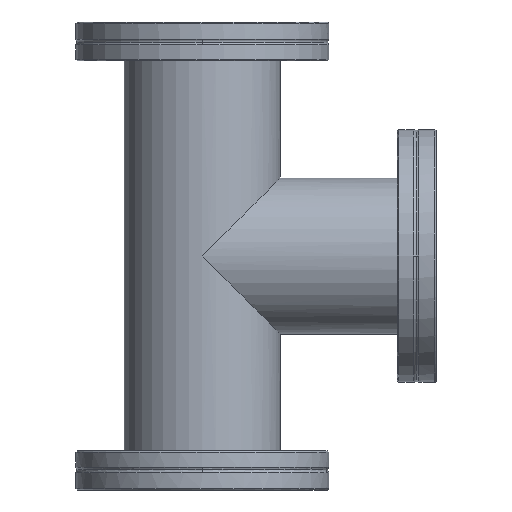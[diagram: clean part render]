
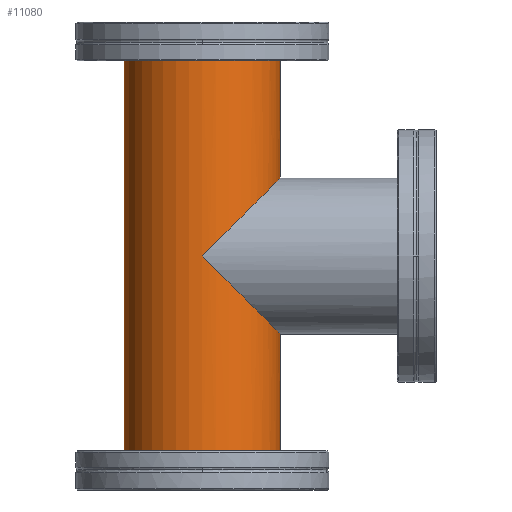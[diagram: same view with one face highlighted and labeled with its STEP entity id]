
A CAD part, front view. The second image highlights one B-rep face of the part: STEP entity #11080.
In plain terms, the highlighted cylindrical face has radius 35 mm (diameter 70 mm), a partial arc.
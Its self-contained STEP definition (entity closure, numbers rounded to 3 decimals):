
#858=CARTESIAN_POINT('',(-35.,0.,95.5));
#859=VERTEX_POINT('',#858);
#860=CARTESIAN_POINT('',(-35.0,0.,-95.5));
#861=VERTEX_POINT('',#860);
#862=CARTESIAN_POINT('',(-35.,0.,95.5));
#863=DIRECTION('',(0.0,0.0,-1.0));
#864=VECTOR('',#863,191.0);
#865=LINE('',#862,#864);
#866=EDGE_CURVE('',#859,#861,#865,.T.);
#868=CARTESIAN_POINT('',(35.,0.,95.5));
#869=VERTEX_POINT('',#868);
#877=CARTESIAN_POINT('',(35.,0.,35.));
#878=VERTEX_POINT('',#877);
#879=CARTESIAN_POINT('',(35.,0.,35.));
#880=DIRECTION('',(0.0,0.0,1.0));
#881=VECTOR('',#880,60.5);
#882=LINE('',#879,#881);
#883=EDGE_CURVE('',#878,#869,#882,.T.);
#894=CARTESIAN_POINT('',(35.,0.,-35.));
#895=VERTEX_POINT('',#894);
#903=CARTESIAN_POINT('',(35.0,0.,-95.5));
#904=VERTEX_POINT('',#903);
#905=CARTESIAN_POINT('',(35.0,0.,-95.5));
#906=DIRECTION('',(0.0,0.0,1.0));
#907=VECTOR('',#906,60.5);
#908=LINE('',#905,#907);
#909=EDGE_CURVE('',#904,#895,#908,.T.);
#8966=CARTESIAN_POINT('',(0.0,0.0,-95.5));
#8967=DIRECTION('',(0.0,0.0,1.0));
#8968=DIRECTION('',(-1.0,0.0,0.0));
#8969=AXIS2_PLACEMENT_3D('',#8966,#8967,#8968);
#8970=CIRCLE('',#8969,35.0);
#8971=EDGE_CURVE('',#861,#904,#8970,.T.);
#10195=CARTESIAN_POINT('',(0.,0.0,95.5));
#10196=DIRECTION('',(0.0,0.0,-1.0));
#10197=DIRECTION('',(1.0,0.0,0.0));
#10198=AXIS2_PLACEMENT_3D('',#10195,#10196,#10197);
#10199=CIRCLE('',#10198,35.0);
#10200=EDGE_CURVE('',#869,#859,#10199,.T.);
#11047=CARTESIAN_POINT('',(0.0,-35.0,0.0));
#11048=VERTEX_POINT('',#11047);
#11049=CARTESIAN_POINT('',(0.0,0.0,0.0));
#11050=DIRECTION('',(0.707,0.0,-0.707));
#11051=DIRECTION('',(0.707,0.0,0.707));
#11052=AXIS2_PLACEMENT_3D('',#11049,#11050,#11051);
#11053=ELLIPSE('',#11052,49.497,35.);
#11054=EDGE_CURVE('',#878,#11048,#11053,.T.);
#11056=CARTESIAN_POINT('',(0.0,0.0,0.0));
#11057=DIRECTION('',(-0.707,0.0,-0.707));
#11058=DIRECTION('',(0.707,0.0,-0.707));
#11059=AXIS2_PLACEMENT_3D('',#11056,#11057,#11058);
#11060=ELLIPSE('',#11059,49.497,35.);
#11061=EDGE_CURVE('',#895,#11048,#11060,.T.);
#11066=CARTESIAN_POINT('',(0.0,0.0,0.0));
#11067=DIRECTION('',(0.0,0.0,-1.0));
#11068=DIRECTION('',(-1.0,0.0,0.0));
#11069=AXIS2_PLACEMENT_3D('',#11066,#11067,#11068);
#11070=CYLINDRICAL_SURFACE('',#11069,35.0);
#11071=ORIENTED_EDGE('',*,*,#866,.T.);
#11072=ORIENTED_EDGE('',*,*,#8971,.T.);
#11073=ORIENTED_EDGE('',*,*,#909,.T.);
#11074=ORIENTED_EDGE('',*,*,#11061,.T.);
#11075=ORIENTED_EDGE('',*,*,#11054,.F.);
#11076=ORIENTED_EDGE('',*,*,#883,.T.);
#11077=ORIENTED_EDGE('',*,*,#10200,.T.);
#11078=EDGE_LOOP('',(#11071,#11072,#11073,#11074,#11075,#11076,#11077));
#11079=FACE_OUTER_BOUND('',#11078,.T.);
#11080=ADVANCED_FACE('',(#11079),#11070,.T.);
